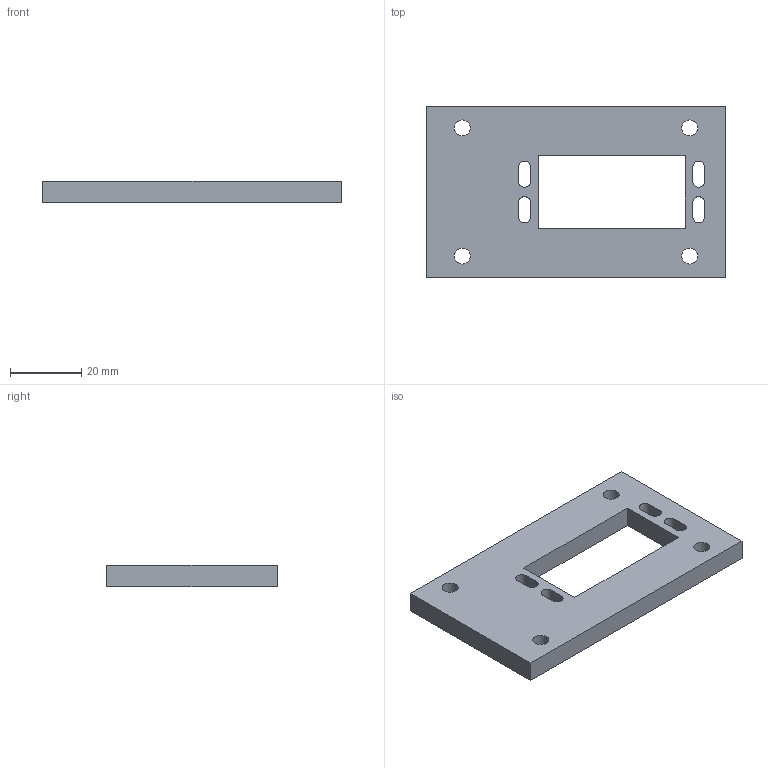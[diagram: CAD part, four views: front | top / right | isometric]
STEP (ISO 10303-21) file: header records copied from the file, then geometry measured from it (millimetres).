
FILE_DESCRIPTION(('Open CASCADE Model'),'2;1');
FILE_NAME('Open CASCADE Shape Model','2026-10-26T17:58:52',('Author'),( 'Open CASCADE'),'Open CASCADE STEP processor 7.9','Open CASCADE 7.9' ,'Unknown');
FILE_SCHEMA(('AUTOMOTIVE_DESIGN { 1 0 10303 214 1 1 1 1 }'));
Length unit declared in the file: millimetre
Products named in the file (1): Open CASCADE STEP translator 7.9 18
Bounding box: 84 x 48 x 6 mm (x, y, z)
Volume: 18235.7 mm3; surface area: 9189.4 mm2
Topology: 1 solids, 1 shells, 30 faces, 84 edges, 56 vertices
Faces by surface type: plane 18, cylinder 12
Full cylindrical faces by diameter (mm): 4.5 x4
Entity records: 2110 total; most frequent: CARTESIAN_POINT 483, DIRECTION 274, ORIENTED_EDGE 168, PCURVE 168, DEFINITIONAL_REPRESENTATION 168, LINE 156, VECTOR 156, EDGE_CURVE 84
